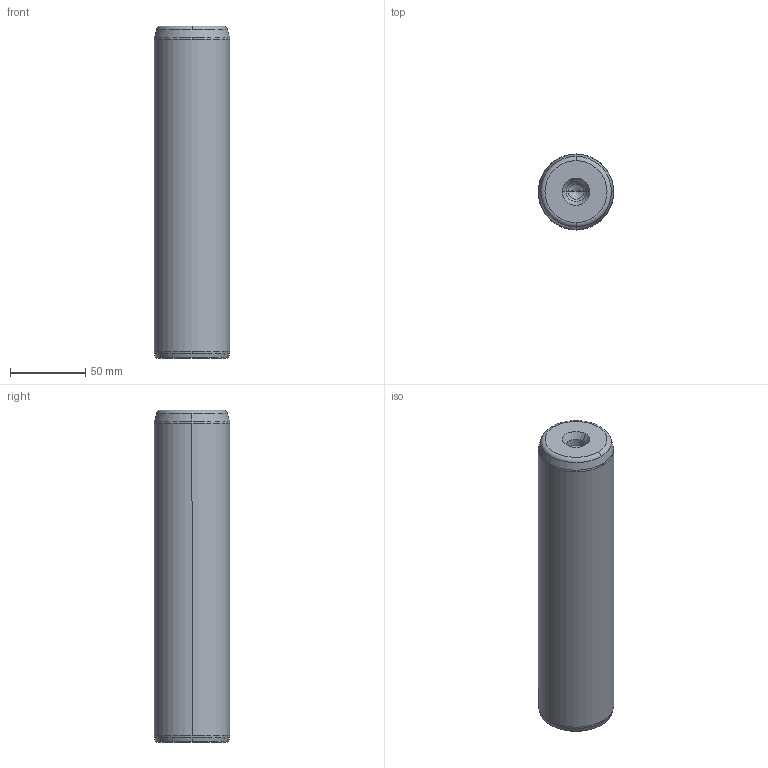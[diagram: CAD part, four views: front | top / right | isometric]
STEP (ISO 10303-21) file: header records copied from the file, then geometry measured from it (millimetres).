
FILE_DESCRIPTION((''),'2;1');
FILE_NAME('P10_050_220.stp','2008-12-23T16:13:38',(''),(''),'Mechanical Desktop 2009','Mechanical Desktop 2009',', , ');
FILE_SCHEMA(('CONFIG_CONTROL_DESIGN'));
Length unit declared in the file: millimetre
Products named in the file (5): Product; ProductAA; blmdl1; ProductA; blmdl1A
Assembly tree (2 placements, depth 3):
  Product
    ProductAA
      blmdl1
  ProductA
  blmdl1A
Bounding box: 50 x 50 x 220 mm (x, y, z)
Volume: 426331.7 mm3; surface area: 39120.7 mm2
Topology: 1 solids, 1 shells, 26 faces, 66 edges, 41 vertices
Faces by surface type: cone 10, torus 8, cylinder 6, plane 2
Entity records: 1012 total; most frequent: DIRECTION 170, CARTESIAN_POINT 134, ORIENTED_EDGE 128, AXIS2_PLACEMENT_3D 77, EDGE_CURVE 64, CIRCLE 48, VERTEX_POINT 41, EDGE_LOOP 27
